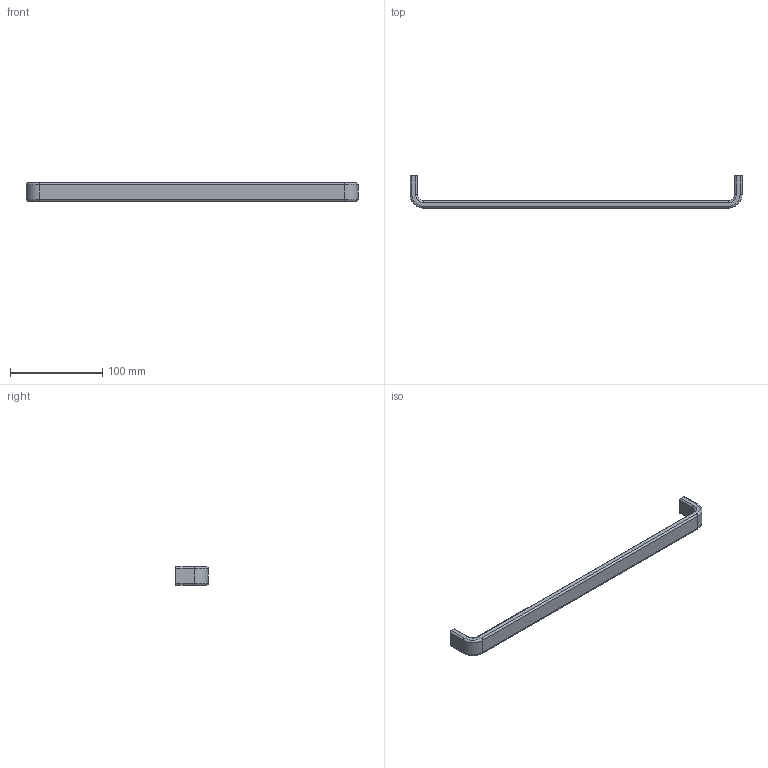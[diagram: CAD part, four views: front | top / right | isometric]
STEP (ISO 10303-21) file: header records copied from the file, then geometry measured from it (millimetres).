
FILE_DESCRIPTION( ( '' ), '1' );
FILE_NAME( 'C:/Documents and Settings/Sachin/Desktop/Sheet 10_1/stp/ 115153.stp', '2013-10-22T11:21:11', ( '' ), ( '' ), ' ', ' ', ' ' );
FILE_SCHEMA( ( 'CONFIG_CONTROL_DESIGN' ) );
Length unit declared in the file: millimetre
Products named in the file (1): 1
Bounding box: 360 x 35 x 20 mm (x, y, z)
Volume: 62947.4 mm3; surface area: 21893.4 mm2
Topology: 1 solids, 1 shells, 40 faces, 92 edges, 56 vertices
Faces by surface type: cylinder 20, plane 12, torus 8
Entity records: 1180 total; most frequent: DIRECTION 222, CARTESIAN_POINT 189, ORIENTED_EDGE 184, EDGE_CURVE 92, AXIS2_PLACEMENT_3D 89, VERTEX_POINT 56, CIRCLE 48, LINE 44
